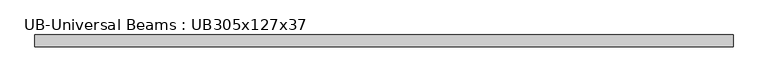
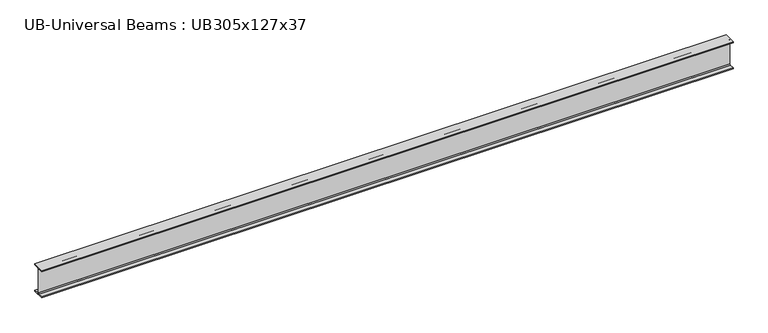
"""IFC4 building model written with IfcOpenShell, lengths in millimetres: beam geometry, UB-Universal Beams : UB305x127x37."""

from ifc_helpers import new_model, si_unit, point, frame, frame_2d, origin, place, context, project, spatial, polyline, circle_curve, trimmed, segment, composite_curve, outline, extrude, source, transform, mapped, element, save


def ub_universal_beams_ub305x127x37_cdbcbb51(model_context):
    return source(origin(), model_context, "Body", "SweptSolid", [
        extrude(outline(composite_curve([segment(polyline([(61.7, -141.5), (61.7, -152.2), (-61.7, -152.2), (-61.7, -141.5), (-12.45, -141.5)]), True, "CONTINUOUS"), segment(trimmed(circle_curve(frame_2d((-12.45, -132.6)), 8.9), [point((-12.45, -141.5))], [point((-3.55, -132.6))], True, "CARTESIAN"), True, "CONTINUOUS"), segment(polyline([(-3.55, -132.6), (-3.55, 132.6)]), True, "CONTINUOUS"), segment(trimmed(circle_curve(frame_2d((-12.45, 132.6)), 8.9), [point((-3.55, 132.6))], [point((-12.45, 141.5))], True, "CARTESIAN"), True, "CONTINUOUS"), segment(polyline([(-12.45, 141.5), (-61.7, 141.5), (-61.7, 152.2), (61.7, 152.2), (61.7, 141.5), (12.45, 141.5)]), True, "CONTINUOUS"), segment(trimmed(circle_curve(frame_2d((12.45, 132.6)), 8.9), [point((12.45, 141.5))], [point((3.55, 132.6))], True, "CARTESIAN"), True, "CONTINUOUS"), segment(polyline([(3.55, 132.6), (3.55, -132.6)]), True, "CONTINUOUS"), segment(trimmed(circle_curve(frame_2d((12.45, -132.6)), 8.9), [point((3.55, -132.6))], [point((12.45, -141.5))], True, "CARTESIAN"), True, "CONTINUOUS"), segment(polyline([(12.45, -141.5), (61.7, -141.5)]), True, "CONTINUOUS")], self_intersect=False)), frame((-3637.3, 0.0, 0.0), z_axis=(1.0, 0.0, 0.0), x_axis=(0.0, 1.0, 0.0)), (0.0, 0.0, 1.0), 7297.7),
    ])


if __name__ == "__main__":
    model = new_model("IFC4")
    model_context = context("Model", 3, world=origin())
    ifc_project = project(units=[si_unit("LENGTHUNIT", "METRE", prefix="MILLI")], contexts=[model_context])
    site = spatial("IfcSite", under=ifc_project)
    building = spatial("IfcBuilding", under=site)
    placement = place(None, origin())
    ub_universal_beams_ub305x127x37_shape = ub_universal_beams_ub305x127x37_cdbcbb51(model_context)
    element("IfcBeam", 1, ObjectType="UB-Universal Beams : UB305x127x37", at=placement, inside=building, context=model_context, shape_type="MappedRepresentation", body=[
        mapped(ub_universal_beams_ub305x127x37_shape, transform((0.0, 0.0, 0.0), x_axis=(1.0, 0.0, 0.0), y_axis=(0.0, 1.0, 0.0), z_axis=(0.0, 0.0, 1.0))),
    ])
    save(model, "model.ifc")
